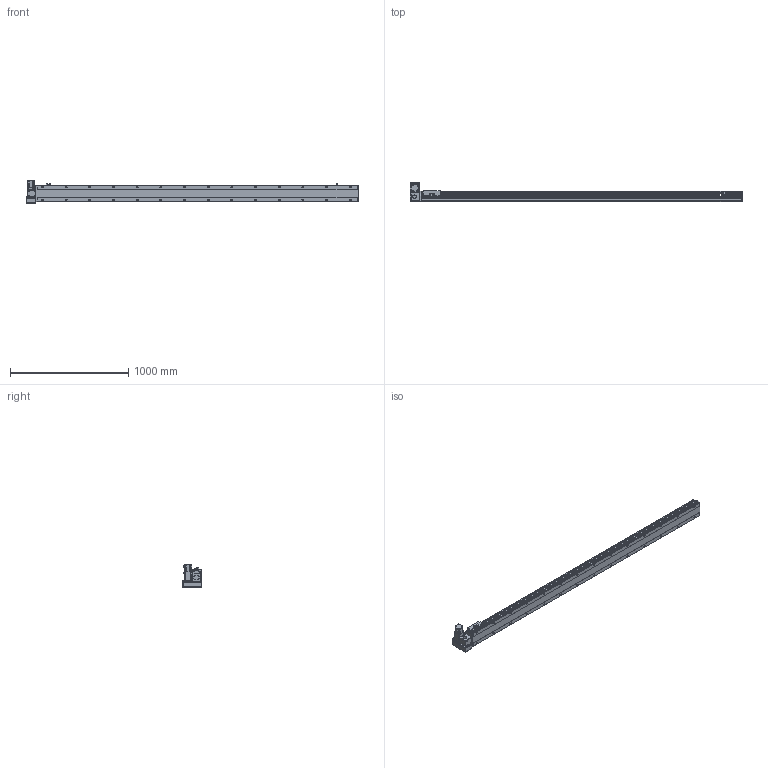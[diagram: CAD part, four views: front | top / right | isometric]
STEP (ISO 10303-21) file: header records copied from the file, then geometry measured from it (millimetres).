
FILE_DESCRIPTION(/* description */ ('STEP AP214'),/* implementation_level */ '2;1');
FILE_NAME(/* name */ 'PBS140S-P40-S2450-LU-T40-C1-N(0)',/* time_stamp */ '2022-06-09T02:36:30+02:00',/* author */ ('License CC BY-ND 4.0'),/* organization */ ('CADENAS'),/* preprocessor_version */ 'ST-DEVELOPER v18.102',/* originating_system */ 'PARTsolutions',/* authorisation */ ' ');
FILE_SCHEMA (('AUTOMOTIVE_DESIGN {1 0 10303 214 3 1 1}'));
Length unit declared in the file: millimetre
Products named in the file (7): PBS140S-P40-S2450-LU-T40-C1-N(0); PBS140S_sensor; PBS140S_plant; PBS140S_sliser; T40-p1; PBS140ST-LU_motors; PBS140S-S2450()_body
Assembly tree (8 placements, depth 2):
  PBS140S-P40-S2450-LU-T40-C1-N(0)
    PBS140S_sensor  x3
    PBS140S_plant
    PBS140S_sliser
    T40-p1
    PBS140ST-LU_motors
    PBS140S-S2450()_body
Bounding box: 2804 x 162.5 x 189.7 mm (x, y, z)
Volume: 13643726.8 mm3; surface area: 2299020.8 mm2
Topology: 8 solids, 8 shells, 1195 faces, 3151 edges, 2061 vertices
Faces by surface type: plane 738, cylinder 393, cone 54, sphere 8, torus 2
Full cylindrical faces by diameter (mm): 3.242 x4, 4 x2, 4.134 x4, 4.4 x8, 4.5 x2, 4.8 x4, 4.917 x36, 5.5 x7, 6 x2, 7 x30, 7.5 x8, 8 x12, 8.5 x4, 10.5 x28, 14 x1, 30 x2, 50 x2
Entity records: 34244 total; most frequent: CARTESIAN_POINT 6488, DIRECTION 5768, ORIENTED_EDGE 5422, EDGE_CURVE 2711, AXIS2_PLACEMENT_3D 2039, VERTEX_POINT 1897, LINE 1690, VECTOR 1690
